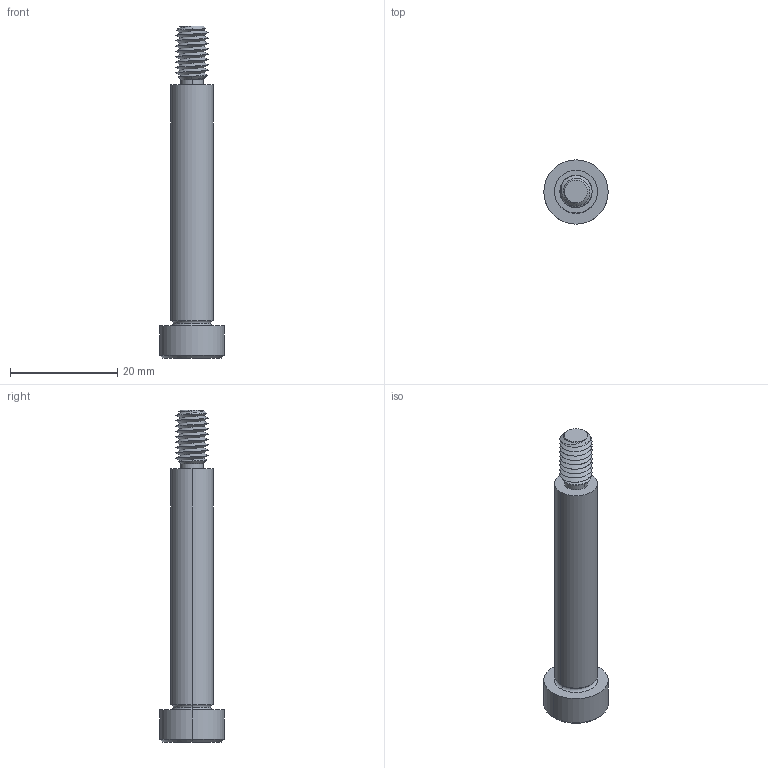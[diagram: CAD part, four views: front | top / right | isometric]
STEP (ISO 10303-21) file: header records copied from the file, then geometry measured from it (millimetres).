
FILE_DESCRIPTION (( 'STEP AP203' ), '1' );
FILE_NAME ('P0130.080-045-B2.step', '2021-11-09T21:41:24', ( '' ), ( '' ), 'SwSTEP 2.0', 'SolidWorks 2019', '' );
FILE_SCHEMA (( 'CONFIG_CONTROL_DESIGN' ));
Length unit declared in the file: millimetre
Products named in the file (1): P0130.080-045-B2
Bounding box: 12 x 12 x 62 mm (x, y, z)
Volume: 3092 mm3; surface area: 1963.8 mm2
Topology: 1 solids, 1 shells, 60 faces, 142 edges, 85 vertices
Faces by surface type: cylinder 24, plane 16, cone 14, torus 4, bspline 2
Entity records: 4245 total; most frequent: CARTESIAN_POINT 2899, ORIENTED_EDGE 280, DIRECTION 247, EDGE_CURVE 140, AXIS2_PLACEMENT_3D 99, VERTEX_POINT 85, EDGE_LOOP 63, FACE_OUTER_BOUND 60
